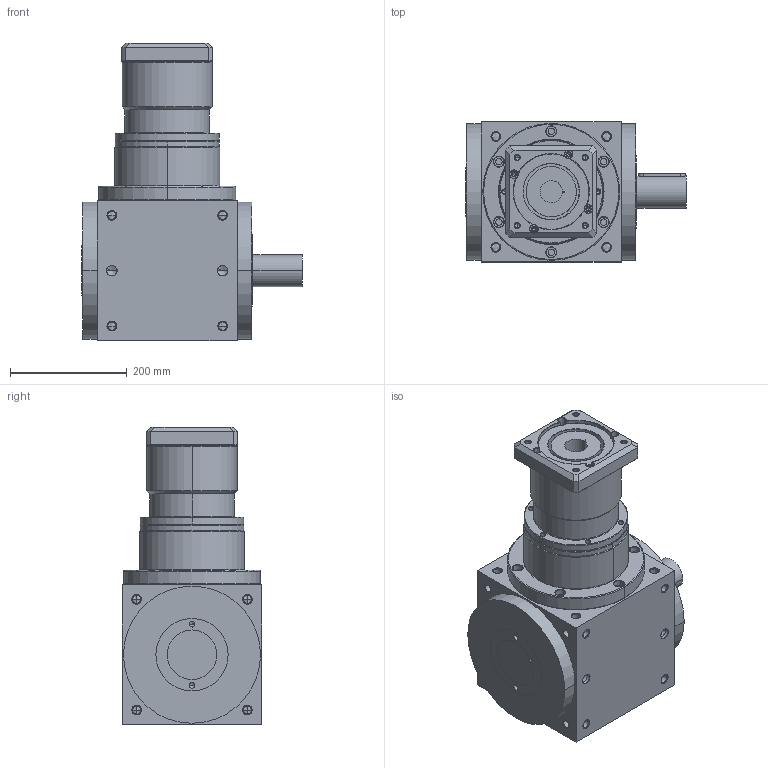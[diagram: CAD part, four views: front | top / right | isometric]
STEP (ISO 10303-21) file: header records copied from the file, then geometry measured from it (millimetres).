
FILE_DESCRIPTION((''),'2;1');
FILE_NAME('ATB240FR12-P0405500201_ASM','2014-07-30T',('d01544'),('APEX'),'PRO/ENGINEER BY PARAMETRIC TECHNOLOGY CORPORATION, 2008410','PRO/ENGINEER BY PARAMETRIC TECHNOLOGY CORPORATION, 2008410','');
FILE_SCHEMA(('CONFIG_CONTROL_DESIGN'));
Length unit declared in the file: millimetre
Products named in the file (5): ATBFR1-HOUSING-2-9; P1820900001; P0226900001; P0405500201; ATB240FR12-P0405500201_ASM
Assembly tree (4 placements, depth 2):
  ATB240FR12-P0405500201_ASM
    ATBFR1-HOUSING-2-9
    P1820900001
    P0226900001
    P0405500201
Bounding box: 379 x 240 x 510 mm (x, y, z)
Volume: 20294200 mm3; surface area: 956942 mm2
Topology: 4 solids, 43 shells, 831 faces, 2023 edges, 1183 vertices
Faces by surface type: cylinder 354, cone 288, plane 117, torus 52, bspline 20
Entity records: 25146 total; most frequent: CARTESIAN_POINT 5693, DIRECTION 4377, ORIENTED_EDGE 3686, EDGE_CURVE 1921, AXIS2_PLACEMENT_3D 1822, VERTEX_POINT 1183, CIRCLE 994, EDGE_LOOP 988
